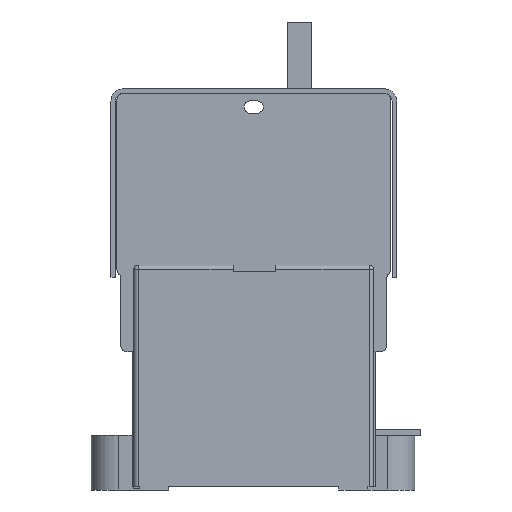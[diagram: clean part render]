
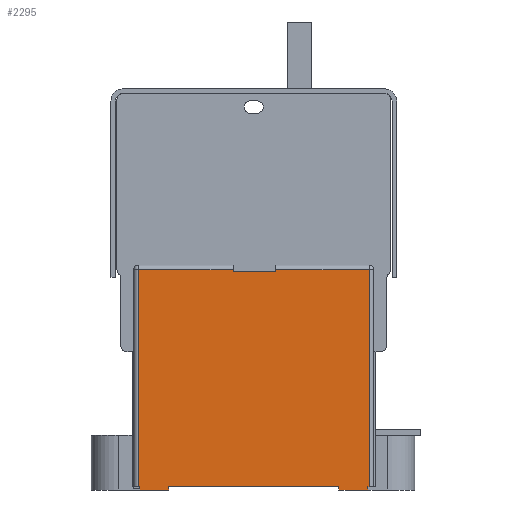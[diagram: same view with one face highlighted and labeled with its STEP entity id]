
A CAD part, left-side view. The second image highlights one B-rep face of the part: STEP entity #2295.
In plain terms, the highlighted planar face has unit normal (-1, 0, 0).
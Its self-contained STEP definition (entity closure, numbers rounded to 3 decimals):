
#2295=ADVANCED_FACE('',(#3886),#2958,.F.);
#2958=PLANE('',#21157);
#3886=FACE_OUTER_BOUND('',#5058,.T.);
#5058=EDGE_LOOP('',(#10108,#10109,#10110,#10111,#10112,#10113,#10114,#10115,
#10116,#10117,#10118,#10119,#10120,#10121,#10122,#10123));
#10108=ORIENTED_EDGE('',*,*,#15299,.F.);
#10109=ORIENTED_EDGE('',*,*,#15087,.T.);
#10110=ORIENTED_EDGE('',*,*,#14911,.T.);
#10111=ORIENTED_EDGE('',*,*,#15301,.F.);
#10112=ORIENTED_EDGE('',*,*,#14914,.T.);
#10113=ORIENTED_EDGE('',*,*,#15047,.T.);
#10114=ORIENTED_EDGE('',*,*,#15302,.T.);
#10115=ORIENTED_EDGE('',*,*,#15303,.T.);
#10116=ORIENTED_EDGE('',*,*,#15304,.F.);
#10117=ORIENTED_EDGE('',*,*,#15134,.F.);
#10118=ORIENTED_EDGE('',*,*,#15139,.T.);
#10119=ORIENTED_EDGE('',*,*,#15305,.T.);
#10120=ORIENTED_EDGE('',*,*,#15147,.F.);
#10121=ORIENTED_EDGE('',*,*,#15141,.F.);
#10122=ORIENTED_EDGE('',*,*,#15306,.T.);
#10123=ORIENTED_EDGE('',*,*,#15307,.T.);
#12337=VERTEX_POINT('',#31529);
#12338=VERTEX_POINT('',#31531);
#12340=VERTEX_POINT('',#31537);
#12341=VERTEX_POINT('',#31538);
#12429=VERTEX_POINT('',#31843);
#12430=VERTEX_POINT('',#31847);
#12476=VERTEX_POINT('',#32028);
#12477=VERTEX_POINT('',#32029);
#12481=VERTEX_POINT('',#32038);
#12482=VERTEX_POINT('',#32043);
#12483=VERTEX_POINT('',#32044);
#12486=VERTEX_POINT('',#32052);
#12581=VERTEX_POINT('',#32346);
#12582=VERTEX_POINT('',#32351);
#12583=VERTEX_POINT('',#32353);
#12584=VERTEX_POINT('',#32357);
#14911=EDGE_CURVE('',#12338,#12337,#17113,.T.);
#14914=EDGE_CURVE('',#12340,#12341,#17115,.T.);
#15047=EDGE_CURVE('',#12341,#12430,#17185,.T.);
#15087=EDGE_CURVE('',#12429,#12338,#17201,.T.);
#15134=EDGE_CURVE('',#12476,#12477,#17236,.T.);
#15139=EDGE_CURVE('',#12476,#12481,#17241,.T.);
#15141=EDGE_CURVE('',#12482,#12483,#17243,.T.);
#15147=EDGE_CURVE('',#12483,#12486,#17249,.T.);
#15299=EDGE_CURVE('',#12429,#12581,#17388,.T.);
#15301=EDGE_CURVE('',#12340,#12337,#17389,.T.);
#15302=EDGE_CURVE('',#12430,#12582,#17390,.T.);
#15303=EDGE_CURVE('',#12582,#12583,#17391,.T.);
#15304=EDGE_CURVE('',#12477,#12583,#17392,.T.);
#15305=EDGE_CURVE('',#12481,#12486,#17393,.T.);
#15306=EDGE_CURVE('',#12482,#12584,#17394,.T.);
#15307=EDGE_CURVE('',#12584,#12581,#17395,.T.);
#17113=LINE('',#31530,#19188);
#17115=LINE('',#31536,#19190);
#17185=LINE('',#31848,#19260);
#17201=LINE('',#31928,#19276);
#17236=LINE('',#32027,#19311);
#17241=LINE('',#32039,#19316);
#17243=LINE('',#32042,#19318);
#17249=LINE('',#32055,#19324);
#17388=LINE('',#32345,#19463);
#17389=LINE('',#32349,#19464);
#17390=LINE('',#32350,#19465);
#17391=LINE('',#32352,#19466);
#17392=LINE('',#32354,#19467);
#17393=LINE('',#32355,#19468);
#17394=LINE('',#32356,#19469);
#17395=LINE('',#32358,#19470);
#19188=VECTOR('',#25537,1.);
#19190=VECTOR('',#25543,1.);
#19260=VECTOR('',#25831,1.);
#19276=VECTOR('',#25943,1.);
#19311=VECTOR('',#26048,1.);
#19316=VECTOR('',#26055,1.);
#19318=VECTOR('',#26059,1.);
#19324=VECTOR('',#26067,1.);
#19463=VECTOR('',#26322,1.);
#19464=VECTOR('',#26327,1.);
#19465=VECTOR('',#26328,1.);
#19466=VECTOR('',#26329,1.);
#19467=VECTOR('',#26330,1.);
#19468=VECTOR('',#26331,1.);
#19469=VECTOR('',#26332,1.);
#19470=VECTOR('',#26333,1.);
#21157=AXIS2_PLACEMENT_3D('',#32359,#26334,#26335);
#25537=DIRECTION('',(0.,0.,-1.));
#25543=DIRECTION('',(0.,0.,1.));
#25831=DIRECTION('',(0.,1.,0.));
#25943=DIRECTION('',(0.,1.,0.));
#26048=DIRECTION('',(0.,1.,0.));
#26055=DIRECTION('',(0.,0.,1.));
#26059=DIRECTION('',(0.,1.,0.));
#26067=DIRECTION('',(0.,0.,1.));
#26322=DIRECTION('',(0.,0.,-1.));
#26327=DIRECTION('',(0.,-1.,0.));
#26328=DIRECTION('',(0.,0.,-1.));
#26329=DIRECTION('',(0.,-1.,0.));
#26330=DIRECTION('',(0.,0.,1.));
#26331=DIRECTION('',(0.,-1.,0.));
#26332=DIRECTION('',(0.,0.,1.));
#26333=DIRECTION('',(0.,-1.,0.));
#26334=DIRECTION('',(1.,0.,0.));
#26335=DIRECTION('',(0.,0.,-1.));
#31529=CARTESIAN_POINT('',(-69.,-31.985,67.));
#31530=CARTESIAN_POINT('',(-69.,-31.985,69.1));
#31531=CARTESIAN_POINT('',(-69.,-31.985,67.6));
#31536=CARTESIAN_POINT('',(-69.,-17.985,69.1));
#31537=CARTESIAN_POINT('',(-69.,-17.985,67.));
#31538=CARTESIAN_POINT('',(-69.,-17.985,67.6));
#31843=CARTESIAN_POINT('',(-69.,-62.735,67.6));
#31847=CARTESIAN_POINT('',(-69.,13.265,67.6));
#31848=CARTESIAN_POINT('',(-69.,13.265,67.6));
#31928=CARTESIAN_POINT('',(-69.,13.265,67.6));
#32027=CARTESIAN_POINT('',(-69.,3.265,-4.9));
#32028=CARTESIAN_POINT('',(-69.,3.265,-4.9));
#32029=CARTESIAN_POINT('',(-69.,12.765,-4.9));
#32038=CARTESIAN_POINT('',(-69.,3.265,-3.9));
#32039=CARTESIAN_POINT('',(-69.,3.265,-5.9));
#32042=CARTESIAN_POINT('',(-69.,-62.235,-4.9));
#32043=CARTESIAN_POINT('',(-69.,-62.235,-4.9));
#32044=CARTESIAN_POINT('',(-69.,-52.735,-4.9));
#32052=CARTESIAN_POINT('',(-69.,-52.735,-3.9));
#32055=CARTESIAN_POINT('',(-69.,-52.735,-5.9));
#32345=CARTESIAN_POINT('',(-69.,-62.735,69.1));
#32346=CARTESIAN_POINT('',(-69.,-62.735,-3.9));
#32349=CARTESIAN_POINT('',(-69.,12.765,67.));
#32350=CARTESIAN_POINT('',(-69.,13.265,69.1));
#32351=CARTESIAN_POINT('',(-69.,13.265,-3.9));
#32352=CARTESIAN_POINT('',(-69.,-62.235,-3.9));
#32353=CARTESIAN_POINT('',(-69.,12.765,-3.9));
#32354=CARTESIAN_POINT('',(-69.,12.765,-5.9));
#32355=CARTESIAN_POINT('',(-69.,-62.235,-3.9));
#32356=CARTESIAN_POINT('',(-69.,-62.235,-5.9));
#32357=CARTESIAN_POINT('',(-69.,-62.235,-3.9));
#32358=CARTESIAN_POINT('',(-69.,-62.235,-3.9));
#32359=CARTESIAN_POINT('',(-69.,-62.235,69.1));
